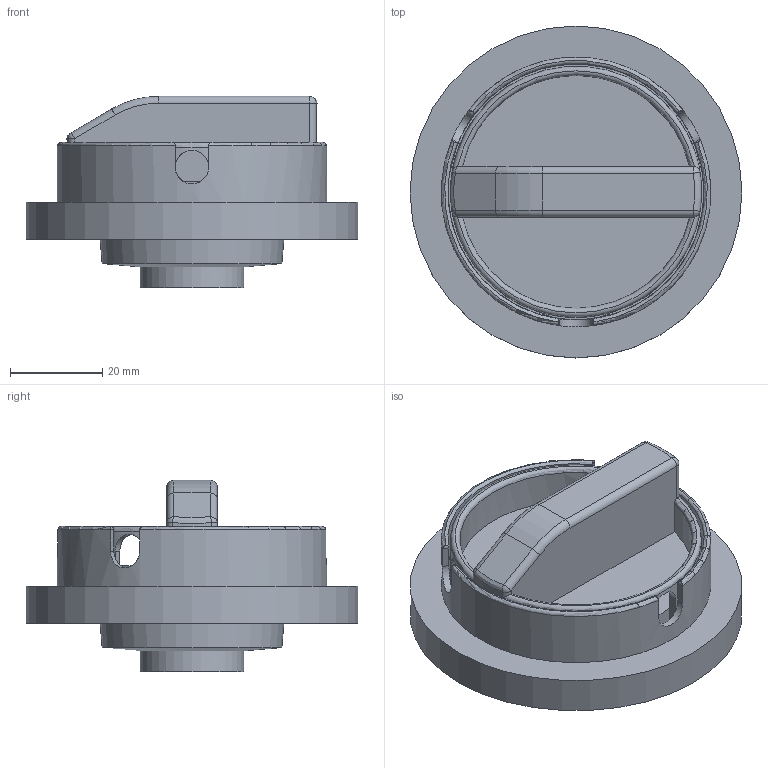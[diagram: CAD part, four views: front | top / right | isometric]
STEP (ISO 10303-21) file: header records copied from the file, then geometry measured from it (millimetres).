
FILE_DESCRIPTION (( 'STEP AP214' ), '1' );
FILE_NAME ('Ðóêîÿòêà ÷åðíàÿ OptiSwitch DI-16-125 (äëÿ OptiSwitch DI-80-125-3 ñ âàëîì OptiSwitch DI-16-125 300ìì).STEP', '2023-03-26T20:33:37', ( 'Ïîëüçîâàòåëü' ), ( '' ), 'SwSTEP 2.0', 'SolidWorks 2018', '' );
FILE_SCHEMA (( 'AUTOMOTIVE_DESIGN' ));
Length unit declared in the file: millimetre
Products named in the file (2): Ðóêîÿòêà ÷åðíàÿ OptiSwitch DI-16-125; Ðóêîÿòêà ÷åðíàÿ OptiSwitch DI-16-125C; Ðóêîÿòêà ÷åðíàÿ OptiSwitch DI-16-125 (äëÿ OptiSwitch DI-80-125-3 ñ âàëîì OptiSwitch DI-16-125 300ìì)
Assembly tree (1 placements, depth 2):
  Ðóêîÿòêà ÷åðíàÿ OptiSwitch DI-16-125 (äëÿ OptiSwitch DI-80-125-3 ñ âàëîì OptiSwitch DI-16-125 300ìì)
    Ðóêîÿòêà ÷åðíàÿ OptiSwitch DI-16-125; Ðóêîÿòêà ÷åðíàÿ OptiSwitch DI-16-125C
Bounding box: 72 x 72 x 41.5 mm (x, y, z)
Volume: 53432.3 mm3; surface area: 23182.7 mm2
Topology: 1 solids, 1 shells, 91 faces, 243 edges, 151 vertices
Faces by surface type: cylinder 37, plane 34, torus 13, sphere 4, cone 2, bspline 1
Full cylindrical faces by diameter (mm): 10 x1, 22.5 x1, 48 x1, 54.5 x1, 55.5 x1, 58.5 x1, 69 x1, 72 x1
Entity records: 3296 total; most frequent: CARTESIAN_POINT 1098, ORIENTED_EDGE 452, DIRECTION 429, EDGE_CURVE 226, AXIS2_PLACEMENT_3D 165, VERTEX_POINT 148, EDGE_LOOP 108, VECTOR 99
